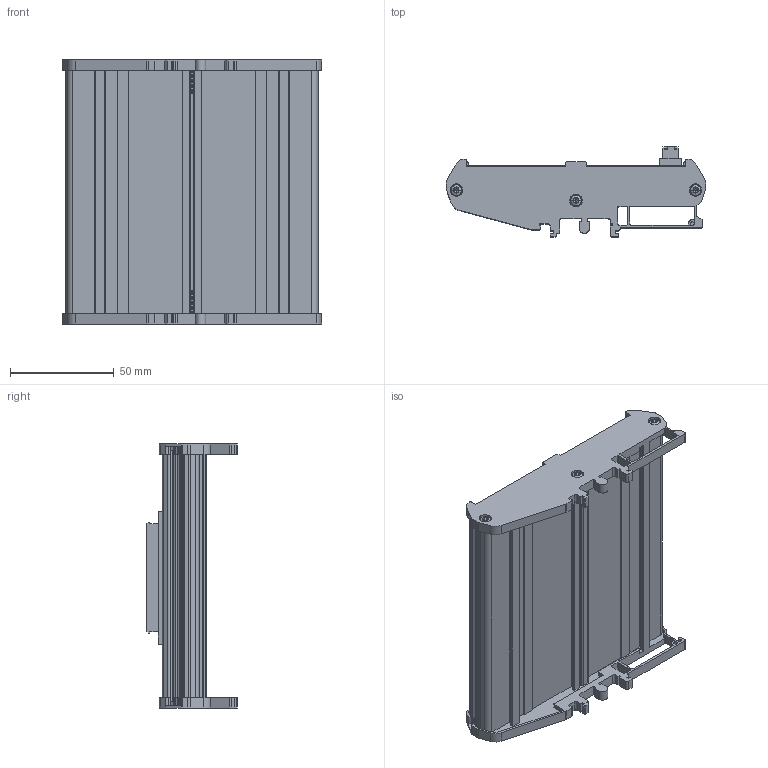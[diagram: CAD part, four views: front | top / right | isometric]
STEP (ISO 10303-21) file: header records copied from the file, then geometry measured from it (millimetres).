
FILE_DESCRIPTION((''),'2;1');
FILE_NAME('CD_ASSY-TBX-68','2008-03-17T',('scarrasc'),(''),'PRO/ENGINEER BY PARAMETRIC TECHNOLOGY CORPORATION, 2006080','PRO/ENGINEER BY PARAMETRIC TECHNOLOGY CORPORATION, 2006080','');
FILE_SCHEMA(('CONFIG_CONTROL_DESIGN'));
Length unit declared in the file: inch
Products named in the file (1): CD_ASSY-TBX-68
Bounding box: 125.4 x 43.65 x 127.5 mm (x, y, z)
Volume: 91776.5 mm3; surface area: 97084.4 mm2
Topology: 2 solids, 3 shells, 1424 faces, 3872 edges, 2453 vertices
Faces by surface type: plane 696, cylinder 496, cone 196, torus 24, sphere 12
Entity records: 45401 total; most frequent: CARTESIAN_POINT 8871, DIRECTION 7798, ORIENTED_EDGE 7696, EDGE_CURVE 3848, AXIS2_PLACEMENT_3D 2721, VERTEX_POINT 2453, VECTOR 2356, LINE 2356
